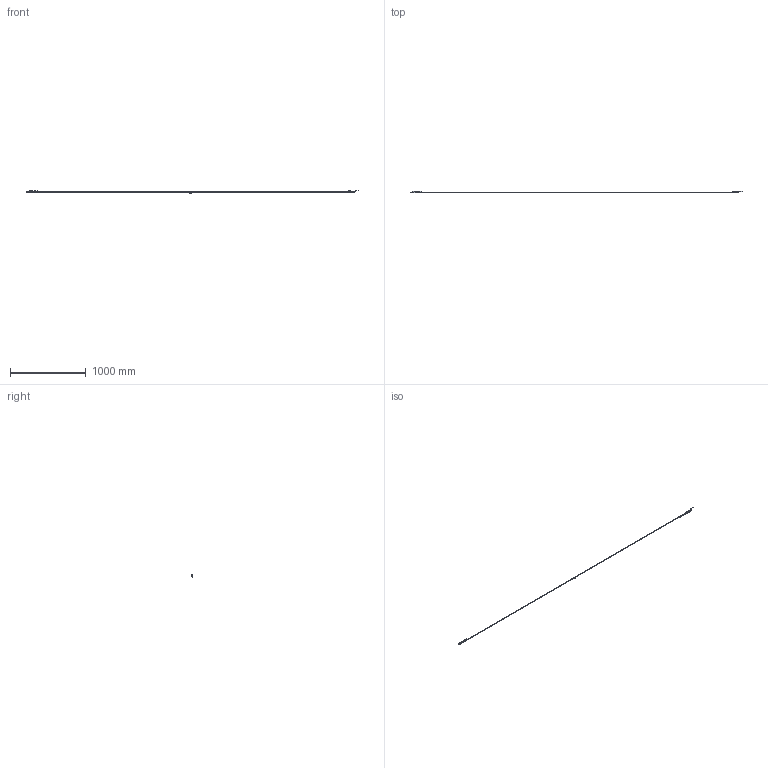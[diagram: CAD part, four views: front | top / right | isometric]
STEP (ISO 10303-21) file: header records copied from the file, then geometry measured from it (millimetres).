
FILE_DESCRIPTION(('Creo Elements/Direct Modeling STEP Export'),'2;1');
FILE_NAME('ITA-4220.stp','2025-01-29T10:07:40',(''),(''),'Creo Elements/Direct Modeling STEP processor for AP214 (Solid Model)','Creo Elements/Direct Modeling 20.4A 18-Oct-2021 (C) Parametric Technology GmbH','');
FILE_SCHEMA(('AUTOMOTIVE_DESIGN { 1 0 10303 214 1 1 1 1 }'));
Length unit declared in the file: millimetre
Products named in the file (10): MAGNET_L1; MAGNET_L2; TAPE_4220; END_TAPE_1; END_TAPE_2; READING_HEAD_1; MAGNET_I0; READING_HEAD_2; ITA-4220; ITA-4220.stp
Assembly tree (9 placements, depth 3):
  ITA-4220.stp
    ITA-4220
      READING_HEAD_2
      MAGNET_I0
      READING_HEAD_1
      END_TAPE_2
      END_TAPE_1
      TAPE_4220
      MAGNET_L2
      MAGNET_L1
Bounding box: 4371.13 x 15.04 x 34.81 mm (x, y, z)
Volume: 48311.8 mm3; surface area: 104529.8 mm2
Topology: 8 solids, 8 shells, 1250 faces, 3429 edges, 2226 vertices
Faces by surface type: plane 908, cylinder 234, bspline 42, cone 32, torus 22, sphere 12
Entity records: 49174 total; most frequent: CARTESIAN_POINT 9938, ORIENTED_EDGE 6818, DIRECTION 6123, EDGE_CURVE 3409, VECTOR 2785, LINE 2785, VERTEX_POINT 2226, AXIS2_PLACEMENT_3D 1669
